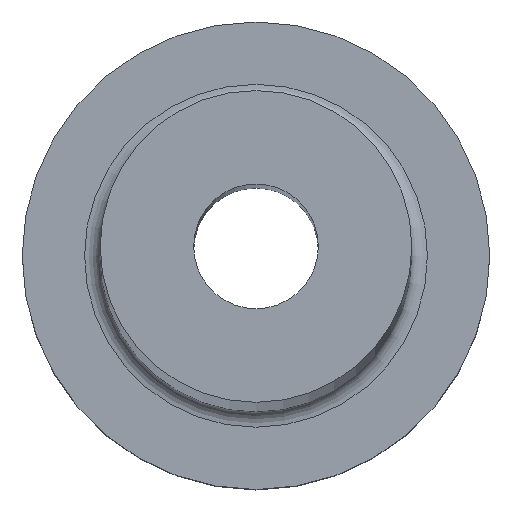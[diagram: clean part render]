
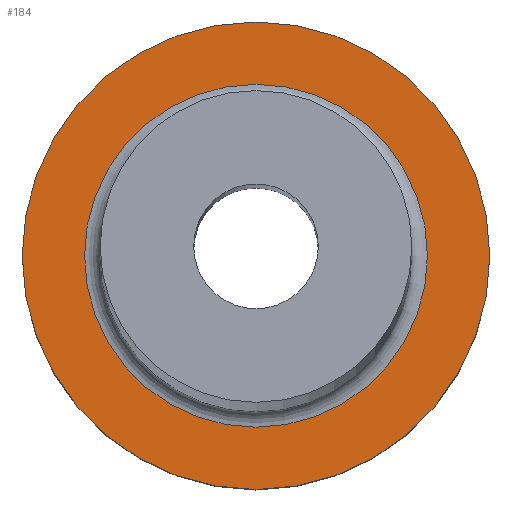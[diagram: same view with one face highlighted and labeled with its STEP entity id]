
A CAD part, top view. The second image highlights one B-rep face of the part: STEP entity #184.
In plain terms, the highlighted planar face has unit normal (0, 0, 1).
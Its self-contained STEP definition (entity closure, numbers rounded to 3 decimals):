
#3 = CARTESIAN_POINT ( 'NONE',  ( 7.5, 0., 8. ) ) ;
#7 = CARTESIAN_POINT ( 'NONE',  ( 0., 0., 8. ) ) ;
#18 = AXIS2_PLACEMENT_3D ( 'NONE', #7, #202, #204 ) ;
#21 = VERTEX_POINT ( 'NONE', #3 ) ;
#51 = EDGE_CURVE ( 'NONE', #282, #282, #206, .T. ) ;
#75 = EDGE_LOOP ( 'NONE', ( #212 ) ) ;
#84 = AXIS2_PLACEMENT_3D ( 'NONE', #217, #117, #228 ) ;
#98 = FACE_OUTER_BOUND ( 'NONE', #75, .T. ) ;
#99 = AXIS2_PLACEMENT_3D ( 'NONE', #101, #211, #152 ) ;
#101 = CARTESIAN_POINT ( 'NONE',  ( 0., 0., 8. ) ) ;
#117 = DIRECTION ( 'NONE',  ( 0., 0., 1. ) ) ;
#123 = EDGE_CURVE ( 'NONE', #21, #21, #196, .T. ) ;
#152 = DIRECTION ( 'NONE',  ( 1., 0., 0. ) ) ;
#170 = FACE_BOUND ( 'NONE', #270, .T. ) ;
#184 = ADVANCED_FACE ( 'NONE', ( #170, #98 ), #224, .T. ) ;
#196 = CIRCLE ( 'NONE', #18, 7.5 ) ;
#202 = DIRECTION ( 'NONE',  ( 0., 0., 1. ) ) ;
#204 = DIRECTION ( 'NONE',  ( 1., 0., 0. ) ) ;
#206 = CIRCLE ( 'NONE', #99, 5.5 ) ;
#211 = DIRECTION ( 'NONE',  ( 0., 0., -1. ) ) ;
#212 = ORIENTED_EDGE ( 'NONE', *, *, #123, .T. ) ;
#217 = CARTESIAN_POINT ( 'NONE',  ( 0., 0., 8. ) ) ;
#224 = PLANE ( 'NONE',  #84 ) ;
#228 = DIRECTION ( 'NONE',  ( 1., 0., 0. ) ) ;
#261 = ORIENTED_EDGE ( 'NONE', *, *, #51, .T. ) ;
#264 = CARTESIAN_POINT ( 'NONE',  ( 5.5, 0., 8. ) ) ;
#270 = EDGE_LOOP ( 'NONE', ( #261 ) ) ;
#282 = VERTEX_POINT ( 'NONE', #264 ) ;
